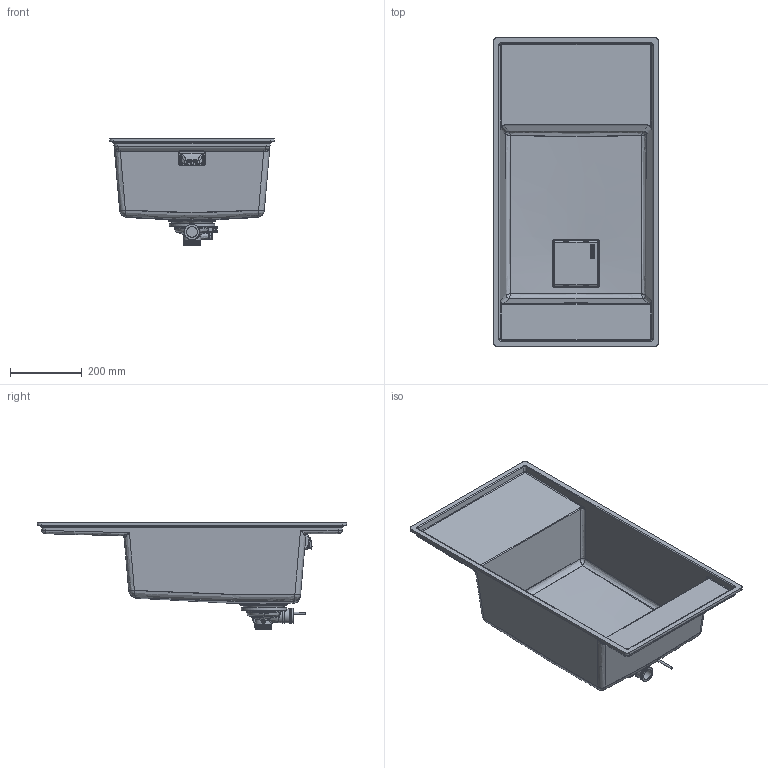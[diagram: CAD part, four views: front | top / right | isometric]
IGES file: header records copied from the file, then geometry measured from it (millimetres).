
Global section: file name: F:\_CONVERSIONE_CAD_2024_2025\_2024\03_3D kits new\Sinks\FRESNO\135.0706.701 3D001_Sinks_Fresno_FSG-211-111-86\3D001_Sinks_Fresno_FSG-211-111-86.igs; native system: Rhinoceros ( Jun 11 2024 ); preprocessor: Trout Lake IGES 012 Jun 11 2024; date: 240626.083129; units: millimetre
Bounding box: 458 x 860 x 295.16 mm (x, y, z)
Surface area: 1574612.3 mm2 (no closed solid volume)
Topology: 0 solids, 0 shells, 2272 faces, 14093 edges, 14033 vertices
Faces by surface type: bspline 2272
